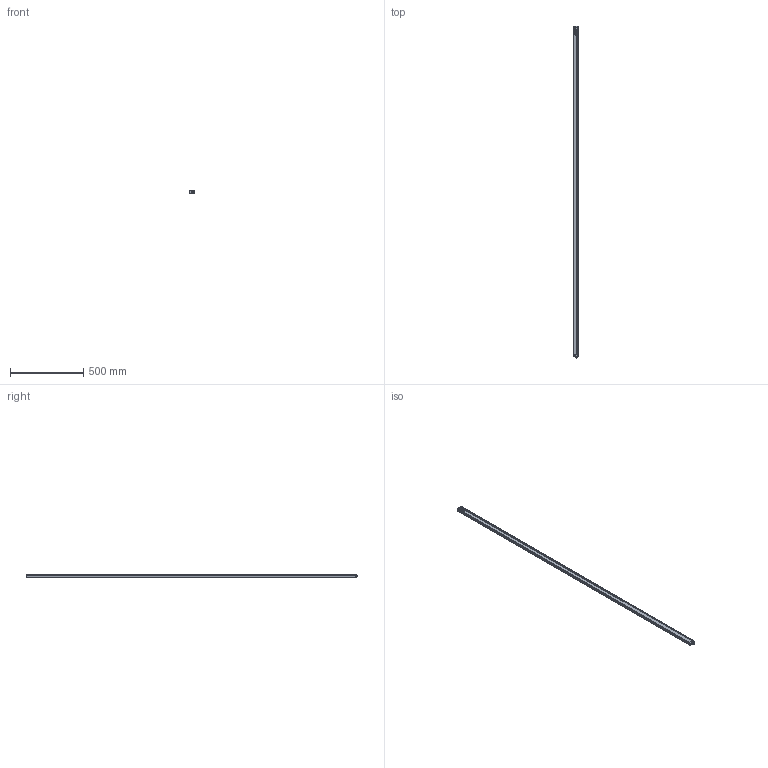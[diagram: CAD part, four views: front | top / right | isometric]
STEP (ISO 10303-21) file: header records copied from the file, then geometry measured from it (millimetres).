
FILE_DESCRIPTION(/* description */ (''),/* implementation_level */ '2;1');
FILE_NAME(/* name */ 'C:\Users\andre\SynologyDrive\Optoscan\Libreria Componenti\00 - Barriere\Barriera sorgente\Argo_2240_RX.stp',/* time_stamp */ '2021-04-22T12:27:56+02:00',/* author */ ('andre'),/* organization */ (''),/* preprocessor_version */ 'ST-DEVELOPER v18',/* originating_system */ 'Autodesk Inventor 2020',/* authorisation */ '');
FILE_SCHEMA (('AUTOMOTIVE_DESIGN { 1 0 10303 214 3 1 1 }'));
Length unit declared in the file: millimetre
Products named in the file (1): Argo_2240_RX
Bounding box: 40.5 x 2273.3 x 20.75 mm (x, y, z)
Volume: 447184.9 mm3; surface area: 593995.6 mm2
Topology: 1 solids, 1 shells, 692 faces, 1898 edges, 1217 vertices
Faces by surface type: plane 319, cylinder 195, bspline 94, torus 70, cone 8, sphere 6
Full cylindrical faces by diameter (mm): 1 x4, 2.459 x4, 2.5 x4, 3 x4, 3.5 x4, 5.5 x4, 8 x1, 10.5 x2, 11.75 x9, 15.7 x1, 17.5 x1
Entity records: 28165 total; most frequent: CARTESIAN_POINT 10195, ORIENTED_EDGE 3778, DIRECTION 3387, EDGE_CURVE 1889, VERTEX_POINT 1217, AXIS2_PLACEMENT_3D 1183, LINE 1021, VECTOR 1021
